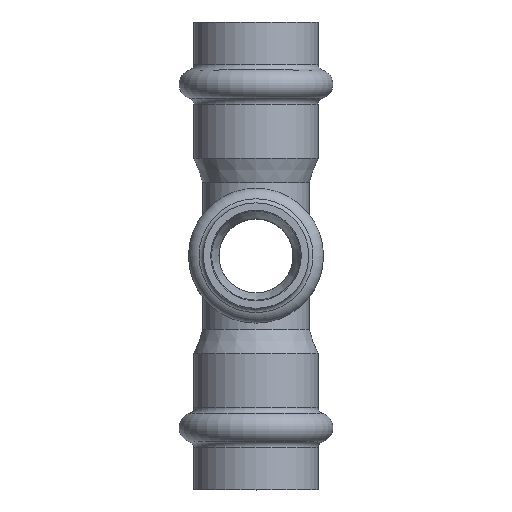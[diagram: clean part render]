
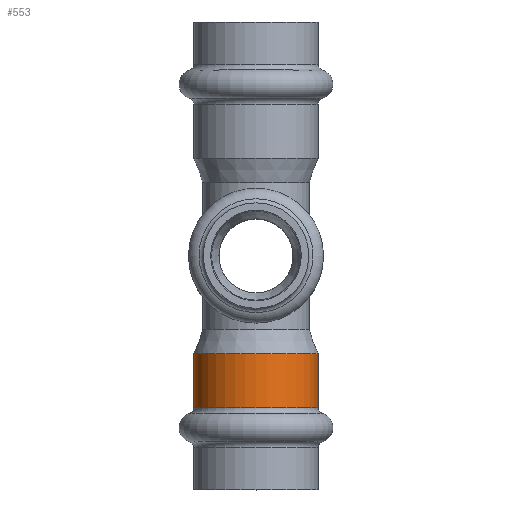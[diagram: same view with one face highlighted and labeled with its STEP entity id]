
A CAD part, top view. The second image highlights one B-rep face of the part: STEP entity #553.
In plain terms, the highlighted cylindrical face has radius 10.5 mm (diameter 21 mm), a full revolution.
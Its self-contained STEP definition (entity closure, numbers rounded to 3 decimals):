
#553=ADVANCED_FACE('',(#1029,#1031),#1033,.T.);
#1029=FACE_OUTER_BOUND('',#1030,.T.);
#1030=EDGE_LOOP('',(#1371));
#1031=FACE_OUTER_BOUND('',#1032,.T.);
#1032=EDGE_LOOP('',(#1372));
#1033=CYLINDRICAL_SURFACE('',#1034,10.5);
#1034=AXIS2_PLACEMENT_3D('',#1035,#1036,#1037);
#1035=CARTESIAN_POINT('',(0.,-25.646,0.));
#1036=DIRECTION('',(0.,1.,0.));
#1037=DIRECTION('',(0.,0.,1.));
#1371=ORIENTED_EDGE('',*,*,#1455,.F.);
#1372=ORIENTED_EDGE('',*,*,#1459,.T.);
#1455=EDGE_CURVE('',#1529,#1530,#1531,.T.);
#1459=EDGE_CURVE('',#1538,#1538,#1539,.T.);
#1529=VERTEX_POINT('',#2704);
#1530=VERTEX_POINT('',#2705);
#1531=CIRCLE('',#2706,10.5);
#1538=VERTEX_POINT('',#2725);
#1539=CIRCLE('',#2726,10.5);
#2704=CARTESIAN_POINT('',(0.,-16.5,10.5));
#2705=CARTESIAN_POINT('',(0.,-16.5,10.5));
#2706=AXIS2_PLACEMENT_3D('',#2707,#2708,#2709);
#2707=CARTESIAN_POINT('',(0.,-16.5,0.));
#2708=DIRECTION('',(0.,1.,0.));
#2709=DIRECTION('',(0.,0.,1.));
#2725=CARTESIAN_POINT('',(0.,-25.646,10.5));
#2726=AXIS2_PLACEMENT_3D('',#2727,#2728,#2729);
#2727=CARTESIAN_POINT('',(0.,-25.646,0.));
#2728=DIRECTION('',(0.,1.,0.));
#2729=DIRECTION('',(0.,0.,1.));
